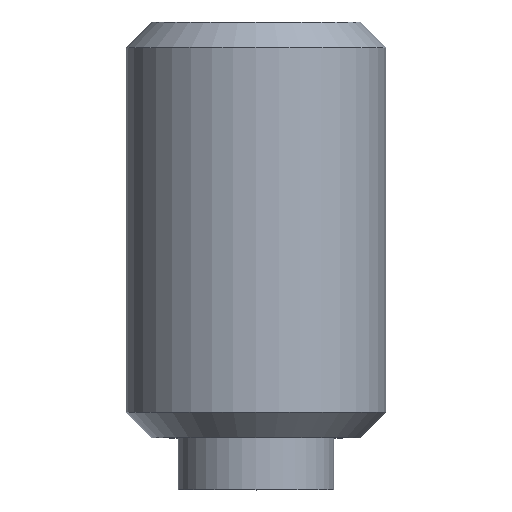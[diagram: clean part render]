
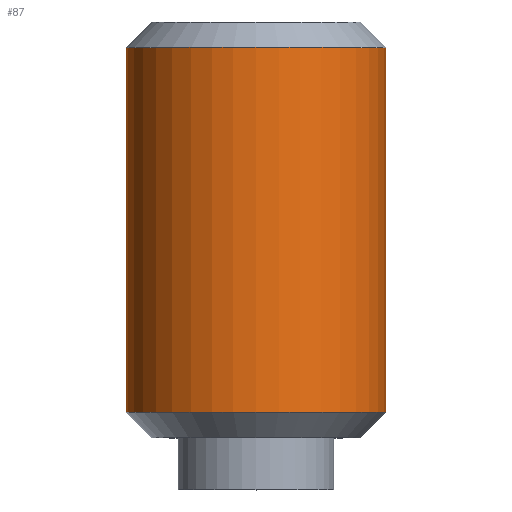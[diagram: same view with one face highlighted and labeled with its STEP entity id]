
A CAD part, top view. The second image highlights one B-rep face of the part: STEP entity #87.
In plain terms, the highlighted cylindrical face has radius 2.5 mm (diameter 5 mm), a full revolution.
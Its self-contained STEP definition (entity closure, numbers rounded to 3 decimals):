
#87 = ADVANCED_FACE( '', ( #118, #119 ), #120, .T. );
#118 = FACE_OUTER_BOUND( '', #152, .T. );
#119 = FACE_OUTER_BOUND( '', #153, .T. );
#120 = CYLINDRICAL_SURFACE( '', #154, 2.5 );
#152 = EDGE_LOOP( '', ( #238 ) );
#153 = EDGE_LOOP( '', ( #239 ) );
#154 = AXIS2_PLACEMENT_3D( '', #240, #241, #242 );
#238 = ORIENTED_EDGE( '', *, *, #270, .F. );
#239 = ORIENTED_EDGE( '', *, *, #271, .T. );
#240 = CARTESIAN_POINT( '', ( 0., 0., 0. ) );
#241 = DIRECTION( '', ( 0., 1., 0. ) );
#242 = DIRECTION( '', ( 0., 0., -1. ) );
#270 = EDGE_CURVE( '', #310, #310, #311, .T. );
#271 = EDGE_CURVE( '', #312, #312, #313, .T. );
#310 = VERTEX_POINT( '', #370 );
#311 = CIRCLE( '', #371, 2.5 );
#312 = VERTEX_POINT( '', #372 );
#313 = CIRCLE( '', #373, 2.5 );
#370 = CARTESIAN_POINT( '', ( 0., 1.491, -2.5 ) );
#371 = AXIS2_PLACEMENT_3D( '', #404, #405, #406 );
#372 = CARTESIAN_POINT( '', ( 0., 8.51, -2.5 ) );
#373 = AXIS2_PLACEMENT_3D( '', #407, #408, #409 );
#404 = CARTESIAN_POINT( '', ( 0., 1.491, 0. ) );
#405 = DIRECTION( '', ( 0., -1., 0. ) );
#406 = DIRECTION( '', ( 0., 0., -1. ) );
#407 = CARTESIAN_POINT( '', ( 0., 8.51, 0. ) );
#408 = DIRECTION( '', ( 0., -1., 0. ) );
#409 = DIRECTION( '', ( 0., 0., -1. ) );
